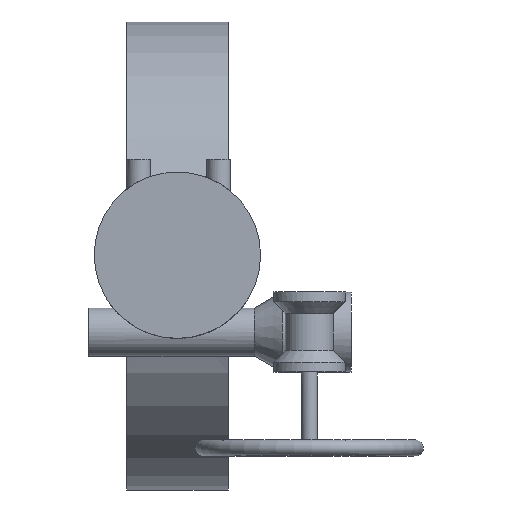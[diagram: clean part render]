
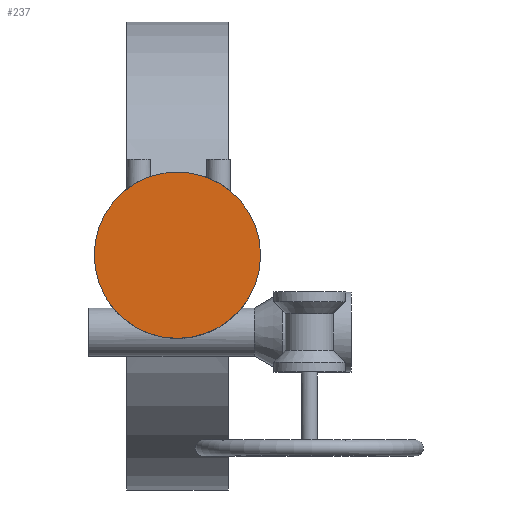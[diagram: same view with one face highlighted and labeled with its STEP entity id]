
A CAD part, top view. The second image highlights one B-rep face of the part: STEP entity #237.
In plain terms, the highlighted planar face has unit normal (0, 0, 1).
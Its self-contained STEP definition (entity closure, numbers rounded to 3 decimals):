
#237=ADVANCED_FACE('',(#7256),#7258,.T.);
#7256=FACE_BOUND('',#7257,.T.);
#7257=EDGE_LOOP('',(#12729));
#7258=PLANE('',#7259);
#7259=AXIS2_PLACEMENT_3D('',#7260,#7261,#7262);
#7260=CARTESIAN_POINT('',(0.,0.,572.));
#7261=DIRECTION('',(0.,0.,1.));
#7262=DIRECTION('',(0.,1.,0.));
#12729=ORIENTED_EDGE('',*,*,#17084,.T.);
#17084=EDGE_CURVE('',#19301,#19301,#19302,.T.);
#19301=VERTEX_POINT('',#23041);
#19302=CIRCLE('',#23042,104.);
#23041=CARTESIAN_POINT('',(0.,104.,572.));
#23042=AXIS2_PLACEMENT_3D('',#23043,#23044,#23045);
#23043=CARTESIAN_POINT('',(0.,0.,572.));
#23044=DIRECTION('',(0.,0.,1.));
#23045=DIRECTION('',(0.,1.,0.));
